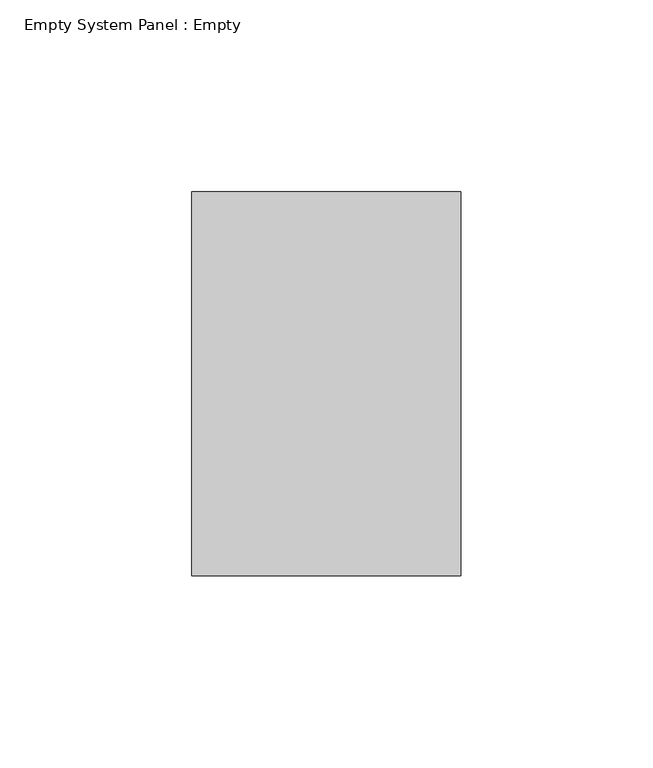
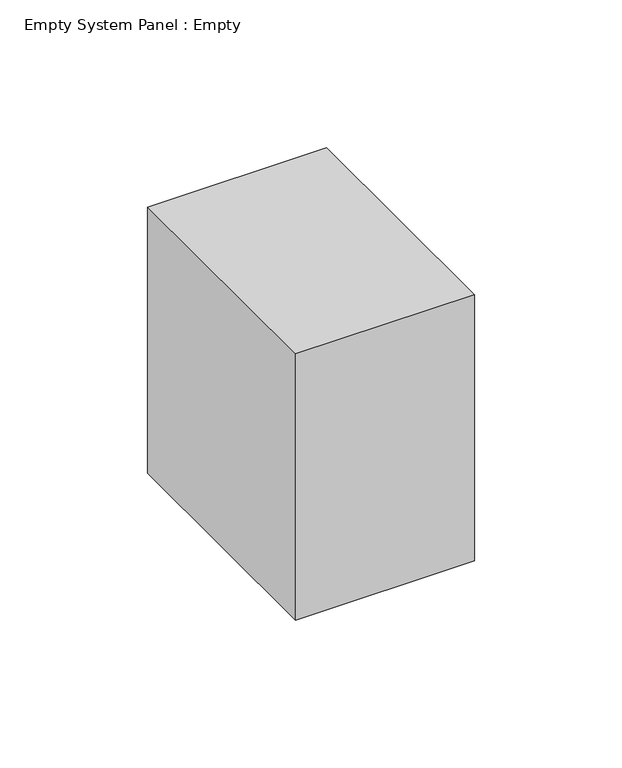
"""IFC4 building model written with IfcOpenShell, lengths in millimetres: plate geometry, Empty System Panel : Empty."""

from ifc_helpers import new_model, si_unit, origin, origin_with_axes, place, context, project, spatial, polyline, outline, extrude, source, transform, mapped, element, save


def empty_system_panel_empty_b2d987b9(model_context):
    return source(origin(), model_context, "Body", "SweptSolid", [
        extrude(outline(polyline([(34.9999998, 50.0), (-34.9999998, 50.0), (-34.9999998, 150.0), (34.9999998, 150.0), (34.9999998, 50.0)])), origin_with_axes(), (0.0, 0.0, 1.0), 110.0),
    ])


if __name__ == "__main__":
    model = new_model("IFC4")
    model_context = context("Model", 3, world=origin())
    ifc_project = project(units=[si_unit("LENGTHUNIT", "METRE", prefix="MILLI")], contexts=[model_context])
    site = spatial("IfcSite", under=ifc_project)
    building = spatial("IfcBuilding", under=site)
    placement = place(None, origin())
    empty_system_panel_empty_shape = empty_system_panel_empty_b2d987b9(model_context)
    element("IfcPlate", 1, ObjectType="Empty System Panel : Empty", at=placement, inside=building, context=model_context, shape_type="MappedRepresentation", body=[
        mapped(empty_system_panel_empty_shape, transform((0.0, 0.0, 0.0), x_axis=(1.0, 0.0, 0.0), y_axis=(0.0, 1.0, 0.0), z_axis=(0.0, 0.0, 1.0))),
    ])
    save(model, "model.ifc")
